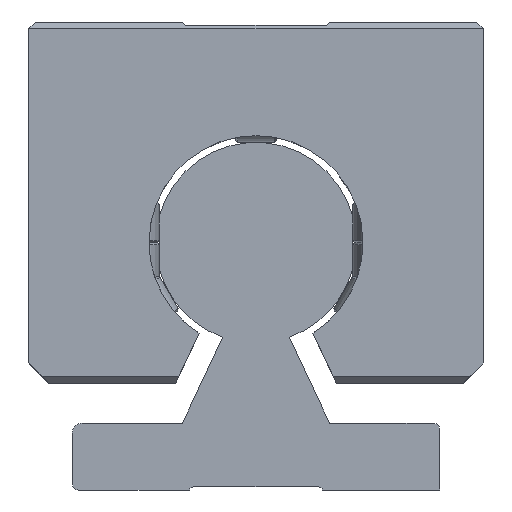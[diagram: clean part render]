
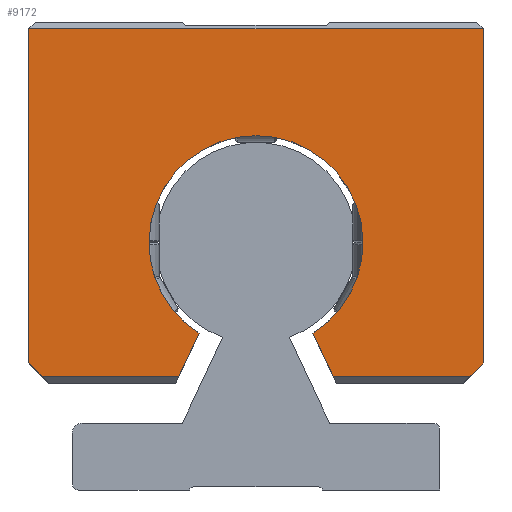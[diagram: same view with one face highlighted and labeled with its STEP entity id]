
A CAD part, left-side view. The second image highlights one B-rep face of the part: STEP entity #9172.
In plain terms, the highlighted planar face has unit normal (-1, 0, 0).
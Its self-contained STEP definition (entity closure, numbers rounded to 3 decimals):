
#7649=CARTESIAN_POINT('',(253.187,-34.,69.0));
#7650=VERTEX_POINT('',#7649);
#7659=CARTESIAN_POINT('',(253.187,-34.,19.0));
#7660=VERTEX_POINT('',#7659);
#7661=CARTESIAN_POINT('',(253.187,-34.,69.0));
#7662=DIRECTION('',(0.0,0.0,-1.0));
#7663=VECTOR('',#7662,50.0);
#7664=LINE('',#7661,#7663);
#7665=EDGE_CURVE('',#7650,#7660,#7664,.T.);
#7926=CARTESIAN_POINT('',(253.187,-8.522,23.458));
#7927=VERTEX_POINT('',#7926);
#7934=CARTESIAN_POINT('',(253.187,8.522,23.458));
#7935=VERTEX_POINT('',#7934);
#7936=CARTESIAN_POINT('',(253.187,0.,37.));
#7937=DIRECTION('',(-1.0,0.0,0.0));
#7938=DIRECTION('',(0.0,-1.0,0.0));
#7939=AXIS2_PLACEMENT_3D('',#7936,#7937,#7938);
#7940=CIRCLE('',#7939,16.0);
#7941=EDGE_CURVE('',#7927,#7935,#7940,.T.);
#8794=CARTESIAN_POINT('',(253.187,34.,69.0));
#8795=VERTEX_POINT('',#8794);
#8802=CARTESIAN_POINT('',(253.187,34.,69.0));
#8803=DIRECTION('',(0.0,-1.0,0.0));
#8804=VECTOR('',#8803,68.0);
#8805=LINE('',#8802,#8804);
#8806=EDGE_CURVE('',#8795,#7650,#8805,.T.);
#8816=CARTESIAN_POINT('',(253.187,32.,17.));
#8817=VERTEX_POINT('',#8816);
#8834=CARTESIAN_POINT('',(253.187,11.534,17.));
#8835=VERTEX_POINT('',#8834);
#8842=CARTESIAN_POINT('',(253.187,11.534,17.));
#8843=DIRECTION('',(0.0,1.0,0.0));
#8844=VECTOR('',#8843,20.466);
#8845=LINE('',#8842,#8844);
#8846=EDGE_CURVE('',#8835,#8817,#8845,.T.);
#8908=CARTESIAN_POINT('',(253.187,34.,19.0));
#8909=VERTEX_POINT('',#8908);
#8910=CARTESIAN_POINT('',(253.187,32.,17.));
#8911=DIRECTION('',(0.0,0.707,0.707));
#8912=VECTOR('',#8911,2.828);
#8913=LINE('',#8910,#8912);
#8914=EDGE_CURVE('',#8817,#8909,#8913,.T.);
#9098=CARTESIAN_POINT('',(253.187,-32.0,17.));
#9099=VERTEX_POINT('',#9098);
#9100=CARTESIAN_POINT('',(253.187,-34.,19.0));
#9101=DIRECTION('',(0.0,0.707,-0.707));
#9102=VECTOR('',#9101,2.828);
#9103=LINE('',#9100,#9102);
#9104=EDGE_CURVE('',#7660,#9099,#9103,.T.);
#9122=CARTESIAN_POINT('',(253.187,-11.534,17.));
#9123=VERTEX_POINT('',#9122);
#9124=CARTESIAN_POINT('',(253.187,-32.0,17.));
#9125=DIRECTION('',(0.0,1.0,0.0));
#9126=VECTOR('',#9125,20.466);
#9127=LINE('',#9124,#9126);
#9128=EDGE_CURVE('',#9099,#9123,#9127,.T.);
#9140=CARTESIAN_POINT('',(253.187,-22.5,69.75));
#9141=DIRECTION('',(1.0,0.0,0.0));
#9142=DIRECTION('',(0.0,0.0,-1.0));
#9143=AXIS2_PLACEMENT_3D('',#9140,#9141,#9142);
#9144=PLANE('',#9143);
#9145=ORIENTED_EDGE('',*,*,#8846,.F.);
#9146=CARTESIAN_POINT('',(253.187,8.522,23.458));
#9147=DIRECTION('',(0.0,0.423,-0.906));
#9148=VECTOR('',#9147,7.126);
#9149=LINE('',#9146,#9148);
#9150=EDGE_CURVE('',#7935,#8835,#9149,.T.);
#9151=ORIENTED_EDGE('',*,*,#9150,.F.);
#9152=ORIENTED_EDGE('',*,*,#7941,.F.);
#9153=CARTESIAN_POINT('',(253.187,-11.534,17.));
#9154=DIRECTION('',(0.0,0.423,0.906));
#9155=VECTOR('',#9154,7.126);
#9156=LINE('',#9153,#9155);
#9157=EDGE_CURVE('',#9123,#7927,#9156,.T.);
#9158=ORIENTED_EDGE('',*,*,#9157,.F.);
#9159=ORIENTED_EDGE('',*,*,#9128,.F.);
#9160=ORIENTED_EDGE('',*,*,#9104,.F.);
#9161=ORIENTED_EDGE('',*,*,#7665,.F.);
#9162=ORIENTED_EDGE('',*,*,#8806,.F.);
#9163=CARTESIAN_POINT('',(253.187,34.,19.0));
#9164=DIRECTION('',(0.0,0.0,1.0));
#9165=VECTOR('',#9164,50.0);
#9166=LINE('',#9163,#9165);
#9167=EDGE_CURVE('',#8909,#8795,#9166,.T.);
#9168=ORIENTED_EDGE('',*,*,#9167,.F.);
#9169=ORIENTED_EDGE('',*,*,#8914,.F.);
#9170=EDGE_LOOP('',(#9145,#9151,#9152,#9158,#9159,#9160,#9161,#9162,#9168,#9169));
#9171=FACE_OUTER_BOUND('',#9170,.T.);
#9172=ADVANCED_FACE('',(#9171),#9144,.F.);
